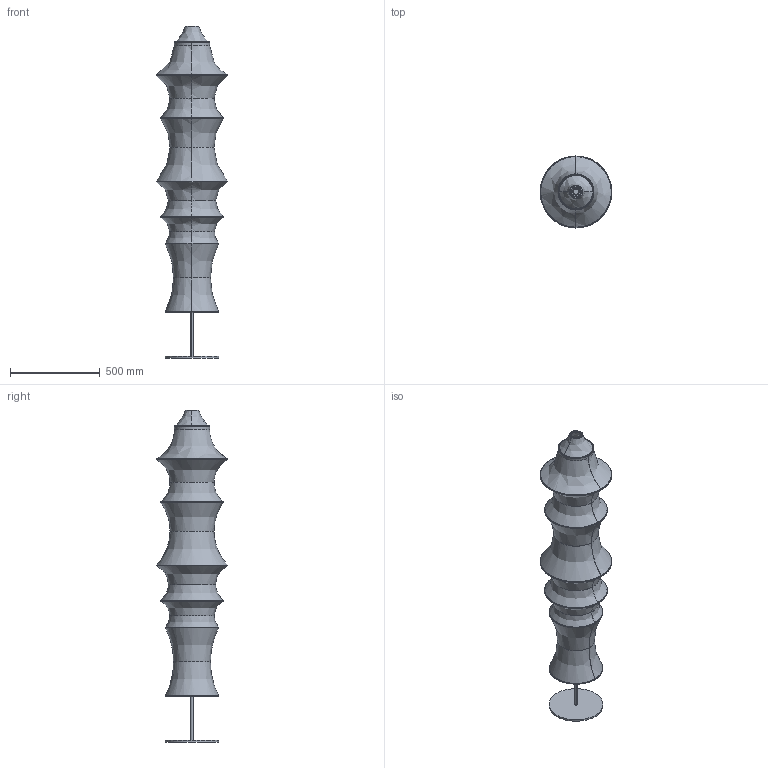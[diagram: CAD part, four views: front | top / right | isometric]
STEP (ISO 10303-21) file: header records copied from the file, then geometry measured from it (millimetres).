
FILE_DESCRIPTION(/* description */ (''),/* implementation_level */ '2;1');
FILE_NAME(/* name */ 'Falkland_floor',/* time_stamp */ '2026-10-05T16:57:29+02:00',/* author */ (''),/* organization */ (''),/* preprocessor_version */ 'ST-DEVELOPER v16.5',/* originating_system */ 'Rhino 7.38',/* authorisation */ '');
FILE_SCHEMA (('CONFIG_CONTROL_DESIGN'));
Length unit declared in the file: millimetre
Products named in the file (1): Document
Bounding box: 399.71 x 400 x 1847.86 mm (x, y, z)
Volume: 2601276.6 mm3; surface area: 3300727.3 mm2
Topology: 19 solids, 19 shells, 291 faces, 703 edges, 426 vertices
Faces by surface type: bspline 142, cylinder 79, plane 70
Entity records: 10037 total; most frequent: CARTESIAN_POINT 5669, ORIENTED_EDGE 1406, EDGE_CURVE 703, VERTEX_POINT 426, EDGE_LOOP 329, ADVANCED_FACE 291, FACE_OUTER_BOUND 291, B_SPLINE_CURVE_WITH_KNOTS 279
